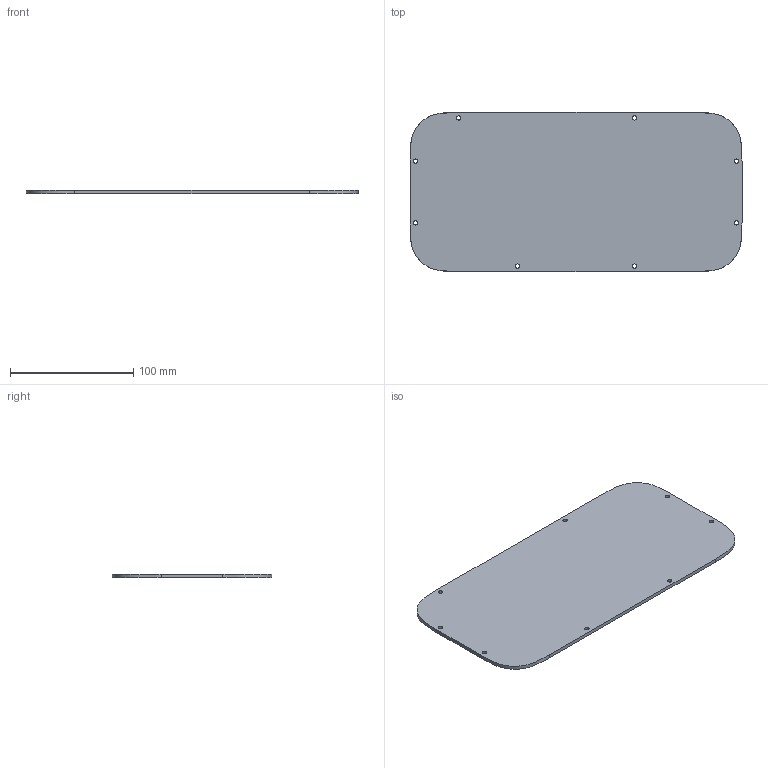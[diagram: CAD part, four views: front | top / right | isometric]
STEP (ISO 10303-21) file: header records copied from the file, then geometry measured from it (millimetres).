
FILE_DESCRIPTION(/* description */ (''),/* implementation_level */ '2;1');
FILE_NAME(/* name */ 'FRAME PANEL TOP-BOTTOM.step',/* time_stamp */ '2024-02-28T16:41:42Z',/* author */ (''),/* organization */ (''),/* preprocessor_version */ 'ST-DEVELOPER v20',/* originating_system */ 'Autodesk Translation Framework v12.20.1.177',/* authorisation */ '');
FILE_SCHEMA (('AUTOMOTIVE_DESIGN { 1 0 10303 214 3 1 1 }'));
Length unit declared in the file: millimetre
Products named in the file (1): FRAME PANEL TOP-BOTTOM
Bounding box: 269 x 129 x 3 mm (x, y, z)
Volume: 101597.9 mm3; surface area: 70231.3 mm2
Topology: 1 solids, 1 shells, 18 faces, 48 edges, 32 vertices
Faces by surface type: cylinder 8, plane 6, bspline 4
Full cylindrical faces by diameter (mm): 3.5 x8
Entity records: 904 total; most frequent: CARTESIAN_POINT 391, ORIENTED_EDGE 96, DIRECTION 86, EDGE_CURVE 48, EDGE_LOOP 34, VERTEX_POINT 32, AXIS2_PLACEMENT_3D 31, LINE 24
